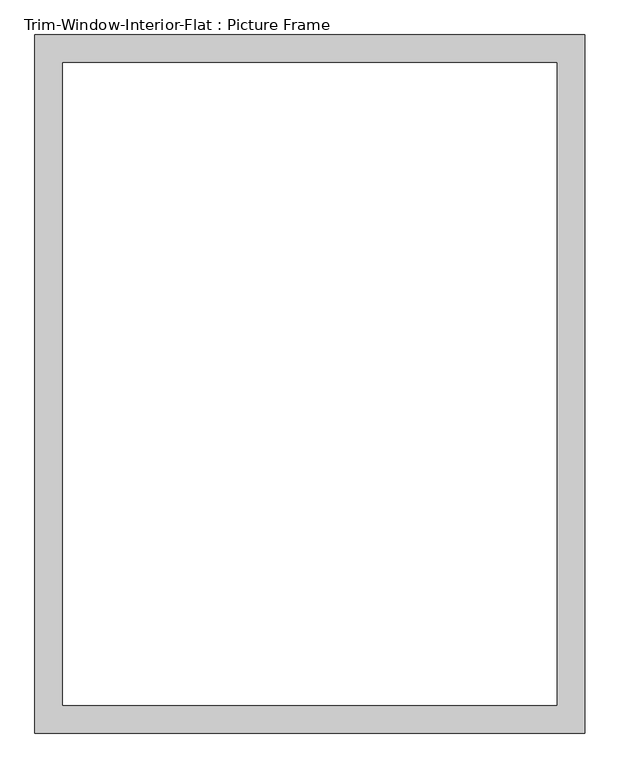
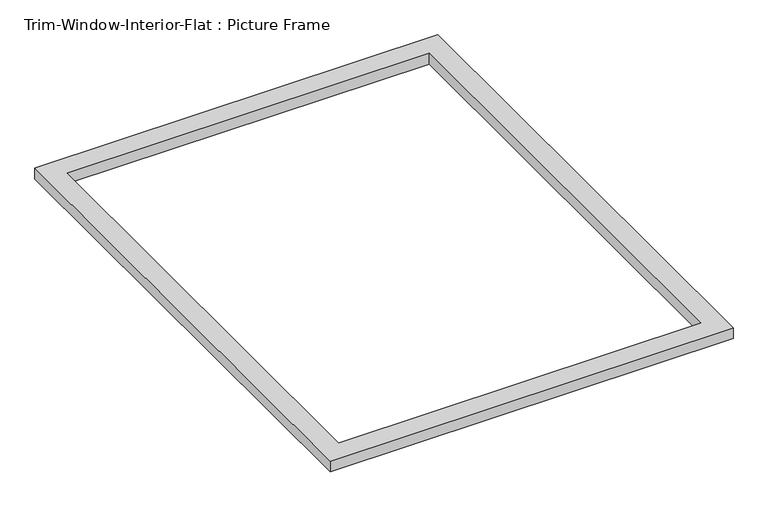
"""IFC4 building model written with IfcOpenShell, lengths in millimetres: proxy geometry, Trim-Window-Interior-Flat : Picture Frame."""

from ifc_helpers import new_model, si_unit, origin, origin_with_axes, place, context, project, spatial, polyline, outline, extrude, source, transform, mapped, element, save


def trim_window_interior_flat_picture_frame_dd064338(model_context):
    return source(origin(), model_context, "Body", "SweptSolid", [
        extrude(outline(polyline([(565.15, 44.45), (565.15, -1390.65), (-565.15, -1390.65), (-565.15, 44.45), (565.15, 44.45)]), holes=[polyline([(508.0, -12.7), (-508.0, -12.7), (-508.0, -1333.5), (508.0, -1333.5), (508.0, -12.7)])]), origin_with_axes(), (0.0, 0.0, 1.0), 31.75),
    ])


if __name__ == "__main__":
    model = new_model("IFC4")
    model_context = context("Model", 3, world=origin())
    ifc_project = project(units=[si_unit("LENGTHUNIT", "METRE", prefix="MILLI")], contexts=[model_context])
    site = spatial("IfcSite", under=ifc_project)
    building = spatial("IfcBuilding", under=site)
    placement = place(None, origin())
    trim_window_interior_flat_picture_frame_shape = trim_window_interior_flat_picture_frame_dd064338(model_context)
    element("IfcBuildingElementProxy", 1, Name="Trim-Window-Interior-Flat : Picture Frame", ObjectType="Trim-Window-Interior-Flat : Picture Frame", at=placement, inside=building, context=model_context, shape_type="MappedRepresentation", body=[
        mapped(trim_window_interior_flat_picture_frame_shape, transform((0.0, 0.0, 0.0), x_axis=(1.0, 0.0, 0.0), y_axis=(0.0, 1.0, 0.0), z_axis=(0.0, 0.0, 1.0))),
    ])
    save(model, "model.ifc")
